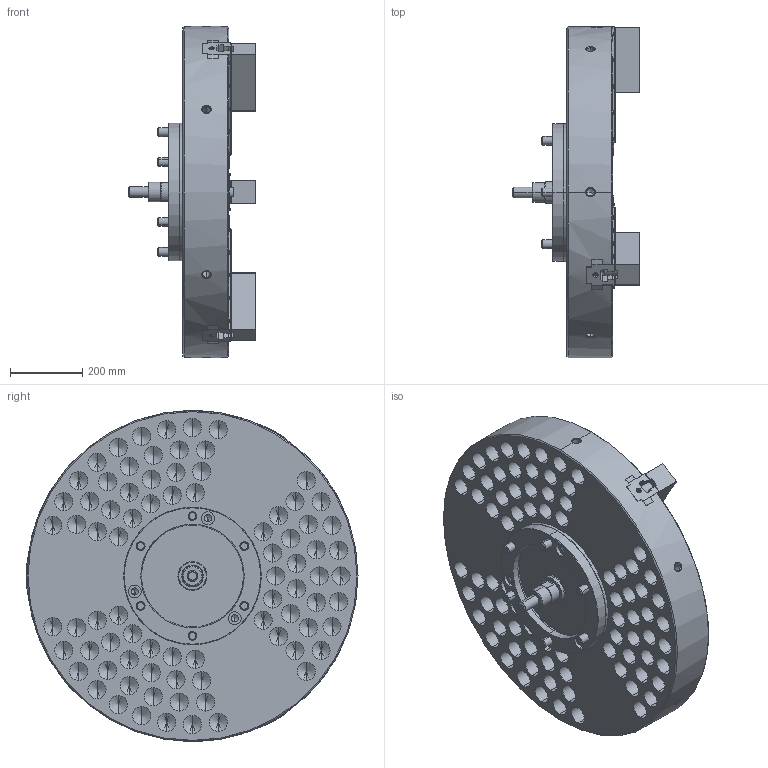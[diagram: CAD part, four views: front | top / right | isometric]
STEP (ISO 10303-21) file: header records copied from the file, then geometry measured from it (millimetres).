
FILE_DESCRIPTION (( 'STEP AP214' ), '1' );
FILE_NAME ('NV36C15_UC.STEP', '2019-12-19T23:18:59', ( '' ), ( '' ), 'SwSTEP 2.0', 'SolidWorks 2017', '' );
FILE_SCHEMA (( 'AUTOMOTIVE_DESIGN' ));
Length unit declared in the file: millimetre
Products named in the file (5): NV36C15_UC; 結合; 0030120060; 61P418538_俿僫僢僩; P32262_ソフトジョー
Assembly tree (16 placements, depth 2):
  NV36C15_UC
    P32262_ソフトジョー  x3
    61P418538_俿僫僢僩  x6
    0030120060  x6
    結合
Bounding box: 352 x 916.6 x 914 mm (x, y, z)
Volume: 79095169.3 mm3; surface area: 3001710.2 mm2
Topology: 16 solids, 16 shells, 6724 faces, 18733 edges, 11998 vertices
Faces by surface type: plane 5476, cylinder 587, cone 547, torus 108, sphere 6
Entity records: 179680 total; most frequent: CARTESIAN_POINT 34718, ORIENTED_EDGE 31110, DIRECTION 28238, EDGE_CURVE 15555, LINE 13432, VECTOR 13432, VERTEX_POINT 10109, AXIS2_PLACEMENT_3D 7403
